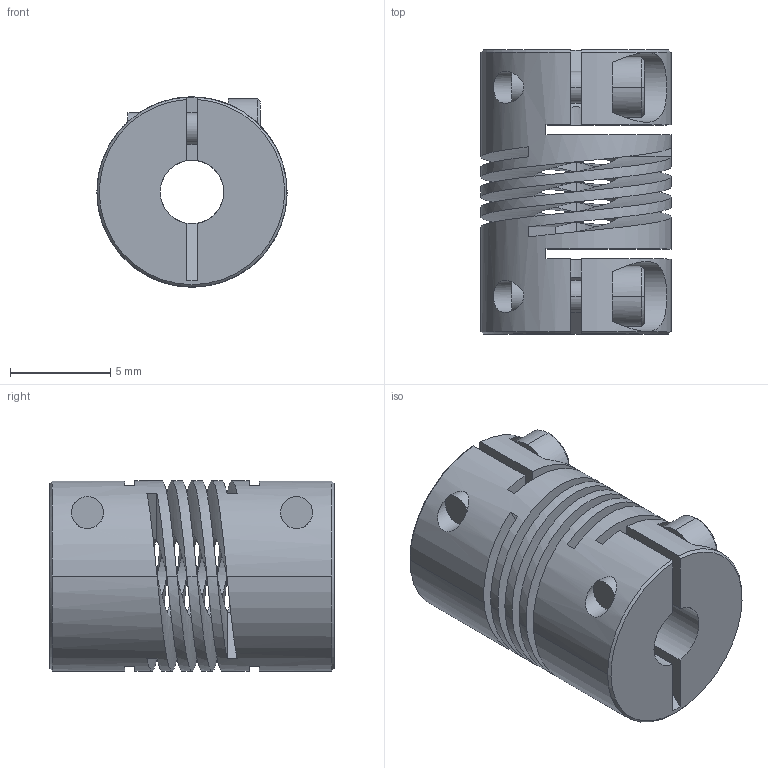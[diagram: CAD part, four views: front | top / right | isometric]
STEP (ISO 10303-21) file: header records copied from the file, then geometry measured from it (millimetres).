
FILE_DESCRIPTION((''),'2;1');
FILE_NAME('725_09','2006-12-05T',('Gary Melling'),(''),'PRO/ENGINEER BY PARAMETRIC TECHNOLOGY CORPORATION, 2006240','PRO/ENGINEER BY PARAMETRIC TECHNOLOGY CORPORATION, 2006240','');
FILE_SCHEMA(('CONFIG_CONTROL_DESIGN'));
Length unit declared in the file: millimetre
Products named in the file (1): 725_09
Bounding box: 9.5 x 14.2 x 9.5 mm (x, y, z)
Volume: 682.1 mm3; surface area: 1357.4 mm2
Topology: 1 solids, 1 shells, 97 faces, 269 edges, 174 vertices
Faces by surface type: plane 52, cylinder 33, cone 6, bspline 6
Entity records: 4276 total; most frequent: CARTESIAN_POINT 1799, ORIENTED_EDGE 538, DIRECTION 463, EDGE_CURVE 269, VERTEX_POINT 174, AXIS2_PLACEMENT_3D 157, VECTOR 149, LINE 149
